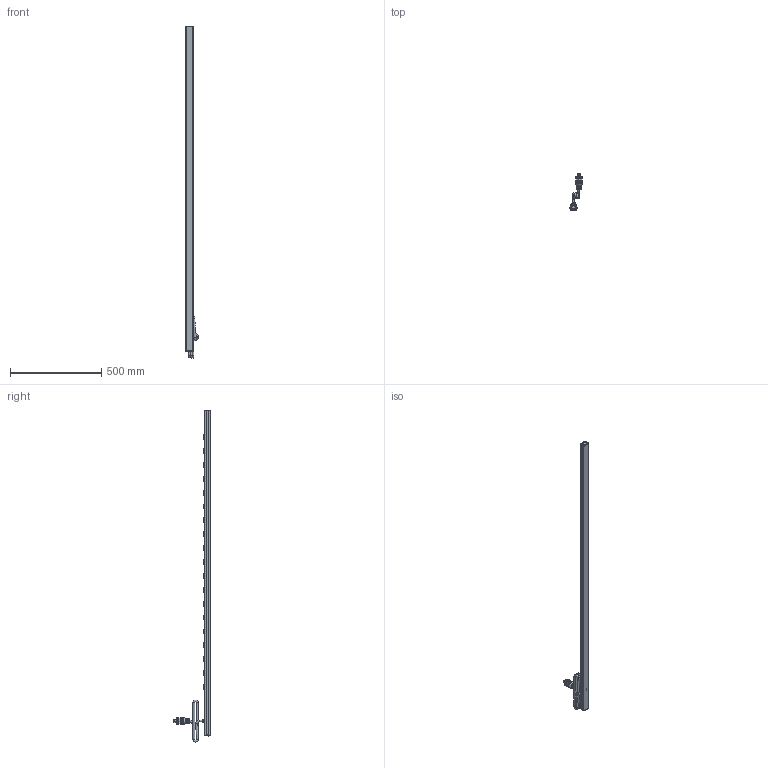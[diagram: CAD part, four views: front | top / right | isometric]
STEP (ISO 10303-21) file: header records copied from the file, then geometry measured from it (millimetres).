
FILE_DESCRIPTION((''),'2;1');
FILE_NAME('E:\Dutton\Manufacturing\drawings\Updated 2009\Vertical Rack Mount Strips\1587 Series\STEP''s\1587T19C1.stp','2010-01-19T14:33:47',('tfoster'),(''),'Autodesk Inventor 2010','Autodesk Inventor 2010','');
FILE_SCHEMA(('AUTOMOTIVE_DESIGN { 1 0 10303 214 1 1 1 1 }'));
Products named in the file (12): 1587T19C1; 1587H19 top; 1587 bottom; End Cap; End Cap w breaker; Reset Switch; #6 - 0.375 Type A screw; Twist Cored 2; toothwasher; round head 1-way 8-32 x 0.5 screw; Receptacle; Pilot light
Assembly tree (32 placements, depth 2):
  1587T19C1
    1587H19 top
    1587 bottom
    End Cap
    End Cap w breaker
    Reset Switch
    #6 - 0.375 Type A screw  x4
    Twist Cored 2
    toothwasher
    round head 1-way 8-32 x 0.5 screw
    Receptacle  x19
    Pilot light
Bounding box: 68.19 x 199.14 x 1821.58 mm (x, y, z)
Volume: 805162.6 mm3; surface area: 705059.3 mm2
Topology: 32 solids, 32 shells, 1815 faces, 4915 edges, 3128 vertices
Faces by surface type: plane 1189, cylinder 398, bspline 96, sphere 81, cone 36, torus 15
Full cylindrical faces by diameter (mm): 1.803 x3, 1.905 x2, 3.175 x15, 4.3 x1, 4.826 x1, 7.849 x1, 9.5 x5, 11 x1, 19.05 x2, 21.59 x2, 22.86 x1, 24.765 x3
Entity records: 31346 total; most frequent: CARTESIAN_POINT 9454, ORIENTED_EDGE 4622, DIRECTION 4207, EDGE_CURVE 2311, VERTEX_POINT 1586, VECTOR 1449, LINE 1449, AXIS2_PLACEMENT_3D 1379
